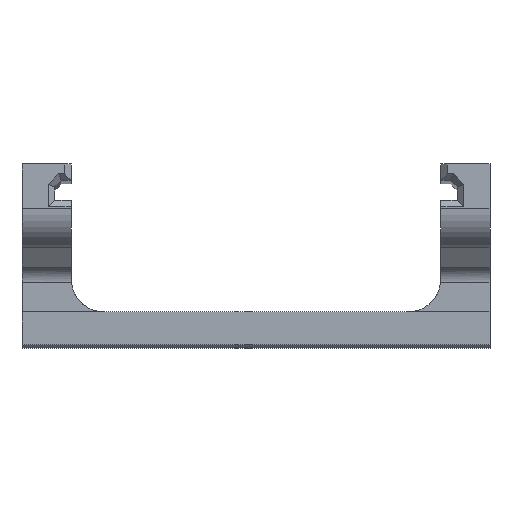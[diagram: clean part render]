
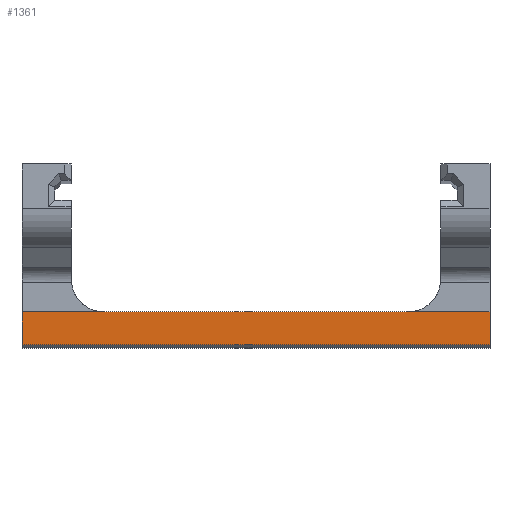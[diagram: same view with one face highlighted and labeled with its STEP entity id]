
A CAD part, top view. The second image highlights one B-rep face of the part: STEP entity #1361.
In plain terms, the highlighted planar face has unit normal (0, 0, 1).
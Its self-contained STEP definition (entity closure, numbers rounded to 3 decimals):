
#45=FACE_OUTER_BOUND('',#119,.T.);
#119=EDGE_LOOP('',(#915,#916,#917,#918));
#197=LINE('',#1955,#363);
#207=LINE('',#1981,#373);
#210=LINE('',#1987,#376);
#211=LINE('',#1988,#377);
#363=VECTOR('',#1569,10.);
#373=VECTOR('',#1587,10.);
#376=VECTOR('',#1592,10.);
#377=VECTOR('',#1593,10.);
#560=VERTEX_POINT('',#1952);
#561=VERTEX_POINT('',#1954);
#573=VERTEX_POINT('',#1980);
#575=VERTEX_POINT('',#1986);
#692=EDGE_CURVE('',#560,#561,#197,.T.);
#705=EDGE_CURVE('',#573,#561,#207,.T.);
#708=EDGE_CURVE('',#575,#560,#210,.T.);
#709=EDGE_CURVE('',#575,#573,#211,.T.);
#915=ORIENTED_EDGE('',*,*,#708,.F.);
#916=ORIENTED_EDGE('',*,*,#709,.T.);
#917=ORIENTED_EDGE('',*,*,#705,.T.);
#918=ORIENTED_EDGE('',*,*,#692,.F.);
#1303=PLANE('',#1455);
#1361=ADVANCED_FACE('',(#45),#1303,.F.);
#1455=AXIS2_PLACEMENT_3D('',#1985,#1590,#1591);
#1569=DIRECTION('',(0.,-1.,0.));
#1587=DIRECTION('',(1.,0.,0.));
#1590=DIRECTION('center_axis',(0.,0.,-1.));
#1591=DIRECTION('ref_axis',(-1.,0.,0.));
#1592=DIRECTION('',(1.,0.,0.));
#1593=DIRECTION('',(0.,-1.,0.));
#1952=CARTESIAN_POINT('',(68.33,2.,60.));
#1954=CARTESIAN_POINT('',(68.33,0.,60.));
#1955=CARTESIAN_POINT('',(68.33,8.25,60.));
#1980=CARTESIAN_POINT('',(39.83,0.,60.));
#1981=CARTESIAN_POINT('',(67.83,0.,60.));
#1985=CARTESIAN_POINT('Origin',(68.33,5.5,60.));
#1986=CARTESIAN_POINT('',(39.83,2.,60.));
#1987=CARTESIAN_POINT('',(67.83,2.,60.));
#1988=CARTESIAN_POINT('',(39.83,10.,60.));
